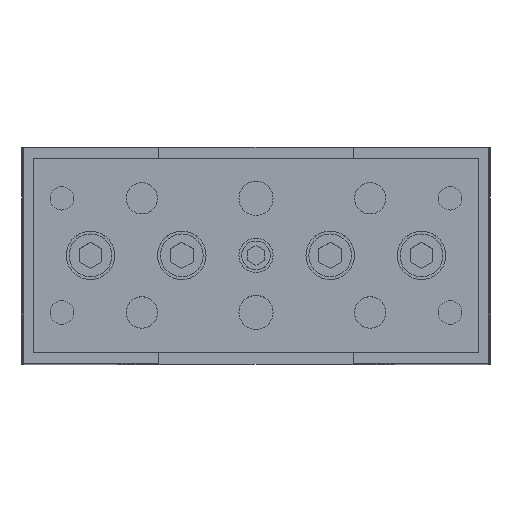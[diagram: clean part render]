
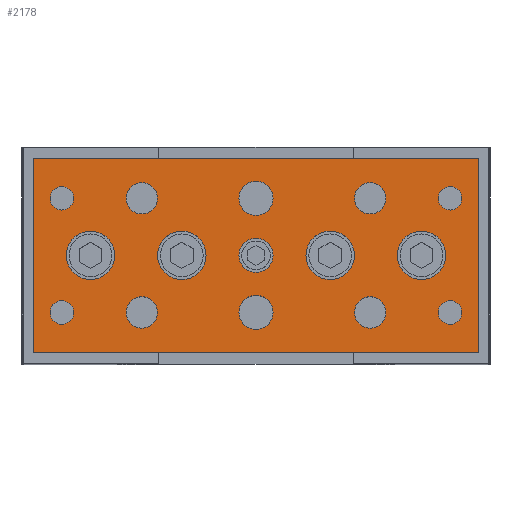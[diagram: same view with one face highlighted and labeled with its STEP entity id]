
A CAD part, top view. The second image highlights one B-rep face of the part: STEP entity #2178.
In plain terms, the highlighted planar face has unit normal (0, 0, 1).
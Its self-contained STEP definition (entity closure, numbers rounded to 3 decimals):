
#139=CARTESIAN_POINT('',(-17.25,10.0,446.));
#140=VERTEX_POINT('',#139);
#141=CARTESIAN_POINT('',(-20.0,10.0,446.));
#142=DIRECTION('',(0.0,0.0,-1.0));
#143=DIRECTION('',(-1.0,0.0,0.0));
#144=AXIS2_PLACEMENT_3D('',#141,#142,#143);
#145=CIRCLE('',#144,2.75);
#146=EDGE_CURVE('',#140,#140,#145,.T.);
#249=CARTESIAN_POINT('',(22.75,10.0,446.));
#250=VERTEX_POINT('',#249);
#251=CARTESIAN_POINT('',(20.,10.0,446.));
#252=DIRECTION('',(0.0,0.0,-1.0));
#253=DIRECTION('',(-1.0,0.0,0.0));
#254=AXIS2_PLACEMENT_3D('',#251,#252,#253);
#255=CIRCLE('',#254,2.75);
#256=EDGE_CURVE('',#250,#250,#255,.T.);
#359=CARTESIAN_POINT('',(-17.25,-10.0,446.));
#360=VERTEX_POINT('',#359);
#361=CARTESIAN_POINT('',(-20.0,-10.0,446.));
#362=DIRECTION('',(0.0,0.0,-1.0));
#363=DIRECTION('',(-1.0,0.0,0.0));
#364=AXIS2_PLACEMENT_3D('',#361,#362,#363);
#365=CIRCLE('',#364,2.75);
#366=EDGE_CURVE('',#360,#360,#365,.T.);
#469=CARTESIAN_POINT('',(22.75,-10.0,446.));
#470=VERTEX_POINT('',#469);
#471=CARTESIAN_POINT('',(20.,-10.0,446.));
#472=DIRECTION('',(0.0,0.0,-1.0));
#473=DIRECTION('',(-1.0,0.0,0.0));
#474=AXIS2_PLACEMENT_3D('',#471,#472,#473);
#475=CIRCLE('',#474,2.75);
#476=EDGE_CURVE('',#470,#470,#475,.T.);
#500=CARTESIAN_POINT('',(3.,-10.0,446.));
#501=VERTEX_POINT('',#500);
#502=CARTESIAN_POINT('',(0.0,-10.0,446.));
#503=DIRECTION('',(0.0,0.0,-1.0));
#504=DIRECTION('',(-1.0,0.0,0.0));
#505=AXIS2_PLACEMENT_3D('',#502,#503,#504);
#506=CIRCLE('',#505,3.);
#507=EDGE_CURVE('',#501,#501,#506,.T.);
#537=CARTESIAN_POINT('',(3.,10.0,446.));
#538=VERTEX_POINT('',#537);
#539=CARTESIAN_POINT('',(0.0,10.0,446.));
#540=DIRECTION('',(0.0,0.0,-1.0));
#541=DIRECTION('',(-1.0,0.0,0.0));
#542=AXIS2_PLACEMENT_3D('',#539,#540,#541);
#543=CIRCLE('',#542,3.);
#544=EDGE_CURVE('',#538,#538,#543,.T.);
#595=CARTESIAN_POINT('',(-31.933,10.0,446.));
#596=VERTEX_POINT('',#595);
#597=CARTESIAN_POINT('',(-34.0,10.0,446.));
#598=DIRECTION('',(0.0,0.0,-1.0));
#599=DIRECTION('',(1.0,0.0,0.0));
#600=AXIS2_PLACEMENT_3D('',#597,#598,#599);
#601=CIRCLE('',#600,2.067);
#602=EDGE_CURVE('',#596,#596,#601,.T.);
#644=CARTESIAN_POINT('',(36.067,10.0,446.));
#645=VERTEX_POINT('',#644);
#646=CARTESIAN_POINT('',(34.0,10.0,446.));
#647=DIRECTION('',(0.0,0.0,-1.0));
#648=DIRECTION('',(1.0,0.0,0.0));
#649=AXIS2_PLACEMENT_3D('',#646,#647,#648);
#650=CIRCLE('',#649,2.067);
#651=EDGE_CURVE('',#645,#645,#650,.T.);
#693=CARTESIAN_POINT('',(-31.933,-10.0,446.));
#694=VERTEX_POINT('',#693);
#695=CARTESIAN_POINT('',(-34.0,-10.0,446.));
#696=DIRECTION('',(0.0,0.0,-1.0));
#697=DIRECTION('',(1.0,0.0,0.0));
#698=AXIS2_PLACEMENT_3D('',#695,#696,#697);
#699=CIRCLE('',#698,2.067);
#700=EDGE_CURVE('',#694,#694,#699,.T.);
#742=CARTESIAN_POINT('',(36.067,-10.0,446.));
#743=VERTEX_POINT('',#742);
#744=CARTESIAN_POINT('',(34.0,-10.0,446.));
#745=DIRECTION('',(0.0,0.0,-1.0));
#746=DIRECTION('',(1.0,0.0,0.0));
#747=AXIS2_PLACEMENT_3D('',#744,#745,#746);
#748=CIRCLE('',#747,2.067);
#749=EDGE_CURVE('',#743,#743,#748,.T.);
#1398=CARTESIAN_POINT('',(3.,0.,446.));
#1399=VERTEX_POINT('',#1398);
#1400=CARTESIAN_POINT('',(0.0,0.0,446.));
#1401=DIRECTION('',(0.0,0.0,-1.0));
#1402=DIRECTION('',(-1.0,0.0,0.0));
#1403=AXIS2_PLACEMENT_3D('',#1400,#1401,#1402);
#1404=CIRCLE('',#1403,3.);
#1405=EDGE_CURVE('',#1399,#1399,#1404,.T.);
#1466=CARTESIAN_POINT('',(17.25,0.,446.));
#1467=VERTEX_POINT('',#1466);
#1468=CARTESIAN_POINT('',(13.,0.0,446.));
#1469=DIRECTION('',(0.0,0.0,-1.0));
#1470=DIRECTION('',(-1.0,0.0,0.0));
#1471=AXIS2_PLACEMENT_3D('',#1468,#1469,#1470);
#1472=CIRCLE('',#1471,4.25);
#1473=EDGE_CURVE('',#1467,#1467,#1472,.T.);
#1534=CARTESIAN_POINT('',(-8.75,0.,446.));
#1535=VERTEX_POINT('',#1534);
#1536=CARTESIAN_POINT('',(-13.,0.0,446.));
#1537=DIRECTION('',(0.0,0.0,-1.0));
#1538=DIRECTION('',(-1.0,0.0,0.0));
#1539=AXIS2_PLACEMENT_3D('',#1536,#1537,#1538);
#1540=CIRCLE('',#1539,4.25);
#1541=EDGE_CURVE('',#1535,#1535,#1540,.T.);
#1602=CARTESIAN_POINT('',(33.25,0.,446.));
#1603=VERTEX_POINT('',#1602);
#1604=CARTESIAN_POINT('',(29.,0.,446.));
#1605=DIRECTION('',(0.0,0.0,-1.0));
#1606=DIRECTION('',(-1.0,0.0,0.0));
#1607=AXIS2_PLACEMENT_3D('',#1604,#1605,#1606);
#1608=CIRCLE('',#1607,4.25);
#1609=EDGE_CURVE('',#1603,#1603,#1608,.T.);
#1670=CARTESIAN_POINT('',(-24.75,0.,446.));
#1671=VERTEX_POINT('',#1670);
#1672=CARTESIAN_POINT('',(-29.,0.,446.));
#1673=DIRECTION('',(0.0,0.0,-1.0));
#1674=DIRECTION('',(-1.0,0.0,0.0));
#1675=AXIS2_PLACEMENT_3D('',#1672,#1673,#1674);
#1676=CIRCLE('',#1675,4.25);
#1677=EDGE_CURVE('',#1671,#1671,#1676,.T.);
#2094=CARTESIAN_POINT('',(39.0,0.0,446.));
#2095=DIRECTION('',(0.0,0.0,1.0));
#2096=DIRECTION('',(1.0,0.0,0.0));
#2097=AXIS2_PLACEMENT_3D('',#2094,#2095,#2096);
#2098=PLANE('',#2097);
#2099=CARTESIAN_POINT('',(39.0,17.0,446.));
#2100=VERTEX_POINT('',#2099);
#2101=CARTESIAN_POINT('',(-39.0,17.0,446.));
#2102=VERTEX_POINT('',#2101);
#2103=CARTESIAN_POINT('',(39.0,17.0,446.));
#2104=DIRECTION('',(-1.0,0.0,0.0));
#2105=VECTOR('',#2104,78.0);
#2106=LINE('',#2103,#2105);
#2107=EDGE_CURVE('',#2100,#2102,#2106,.T.);
#2108=ORIENTED_EDGE('',*,*,#2107,.T.);
#2109=CARTESIAN_POINT('',(-39.0,-17.0,446.));
#2110=VERTEX_POINT('',#2109);
#2111=CARTESIAN_POINT('',(-39.0,17.0,446.));
#2112=DIRECTION('',(0.0,-1.0,0.0));
#2113=VECTOR('',#2112,34.0);
#2114=LINE('',#2111,#2113);
#2115=EDGE_CURVE('',#2102,#2110,#2114,.T.);
#2116=ORIENTED_EDGE('',*,*,#2115,.T.);
#2117=CARTESIAN_POINT('',(39.0,-17.0,446.));
#2118=VERTEX_POINT('',#2117);
#2119=CARTESIAN_POINT('',(-39.0,-17.0,446.));
#2120=DIRECTION('',(1.0,0.0,0.0));
#2121=VECTOR('',#2120,78.0);
#2122=LINE('',#2119,#2121);
#2123=EDGE_CURVE('',#2110,#2118,#2122,.T.);
#2124=ORIENTED_EDGE('',*,*,#2123,.T.);
#2125=CARTESIAN_POINT('',(39.0,-17.0,446.));
#2126=DIRECTION('',(0.0,1.0,0.0));
#2127=VECTOR('',#2126,34.0);
#2128=LINE('',#2125,#2127);
#2129=EDGE_CURVE('',#2118,#2100,#2128,.T.);
#2130=ORIENTED_EDGE('',*,*,#2129,.T.);
#2131=EDGE_LOOP('',(#2108,#2116,#2124,#2130));
#2132=FACE_OUTER_BOUND('',#2131,.T.);
#2133=ORIENTED_EDGE('',*,*,#146,.T.);
#2134=EDGE_LOOP('',(#2133));
#2135=FACE_BOUND('',#2134,.T.);
#2136=ORIENTED_EDGE('',*,*,#256,.T.);
#2137=EDGE_LOOP('',(#2136));
#2138=FACE_BOUND('',#2137,.T.);
#2139=ORIENTED_EDGE('',*,*,#366,.T.);
#2140=EDGE_LOOP('',(#2139));
#2141=FACE_BOUND('',#2140,.T.);
#2142=ORIENTED_EDGE('',*,*,#476,.T.);
#2143=EDGE_LOOP('',(#2142));
#2144=FACE_BOUND('',#2143,.T.);
#2145=ORIENTED_EDGE('',*,*,#507,.T.);
#2146=EDGE_LOOP('',(#2145));
#2147=FACE_BOUND('',#2146,.T.);
#2148=ORIENTED_EDGE('',*,*,#544,.T.);
#2149=EDGE_LOOP('',(#2148));
#2150=FACE_BOUND('',#2149,.T.);
#2151=ORIENTED_EDGE('',*,*,#602,.T.);
#2152=EDGE_LOOP('',(#2151));
#2153=FACE_BOUND('',#2152,.T.);
#2154=ORIENTED_EDGE('',*,*,#651,.T.);
#2155=EDGE_LOOP('',(#2154));
#2156=FACE_BOUND('',#2155,.T.);
#2157=ORIENTED_EDGE('',*,*,#700,.T.);
#2158=EDGE_LOOP('',(#2157));
#2159=FACE_BOUND('',#2158,.T.);
#2160=ORIENTED_EDGE('',*,*,#749,.T.);
#2161=EDGE_LOOP('',(#2160));
#2162=FACE_BOUND('',#2161,.T.);
#2163=ORIENTED_EDGE('',*,*,#1677,.T.);
#2164=EDGE_LOOP('',(#2163));
#2165=FACE_BOUND('',#2164,.T.);
#2166=ORIENTED_EDGE('',*,*,#1609,.T.);
#2167=EDGE_LOOP('',(#2166));
#2168=FACE_BOUND('',#2167,.T.);
#2169=ORIENTED_EDGE('',*,*,#1541,.T.);
#2170=EDGE_LOOP('',(#2169));
#2171=FACE_BOUND('',#2170,.T.);
#2172=ORIENTED_EDGE('',*,*,#1473,.T.);
#2173=EDGE_LOOP('',(#2172));
#2174=FACE_BOUND('',#2173,.T.);
#2175=ORIENTED_EDGE('',*,*,#1405,.T.);
#2176=EDGE_LOOP('',(#2175));
#2177=FACE_BOUND('',#2176,.T.);
#2178=ADVANCED_FACE('',(#2132,#2135,#2138,#2141,#2144,#2147,#2150,#2153,#2156,#2159,#2162,#2165,#2168,#2171,#2174,#2177),#2098,.T.);
